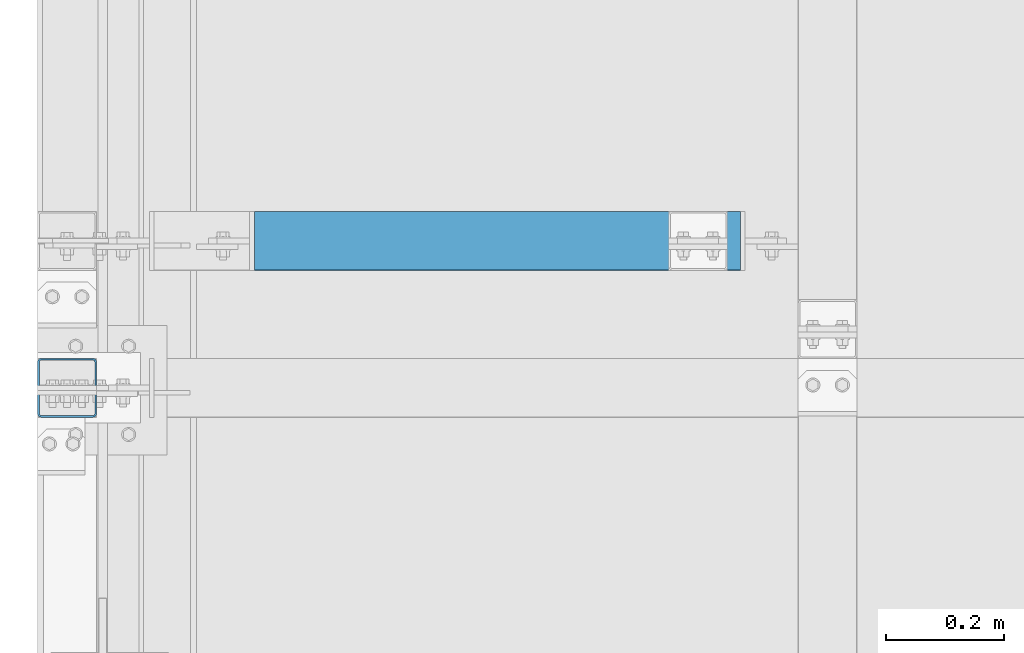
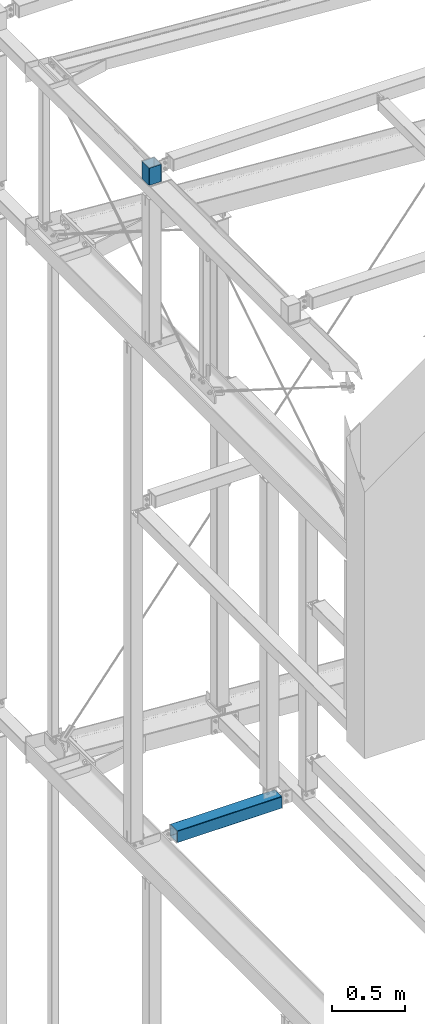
# One storey, part 64 of 271: 2 beams, 2 elements without a shape of their own.
"""IFC2X3 building model written with IfcOpenShell, lengths in millimetres."""

import ifcopenshell
import ifcopenshell.guid

model = None  # the IFC model being written
_history = None  # IfcOwnerHistory: only IFC2X3 demands one
_inside = {}  # id of a spatial element -> (the spatial element, [elements in it])
_under = {}  # id of a project, library or spatial element -> (it, [spatial elements below it])
_declared = {}  # id of a project -> (the project, [libraries it declares])
_typed = {}  # id of a type object -> (the type object, [elements of that type])
_made_of = {}  # id of a material, layer set ... -> (it, [elements and type objects made of it])


def new_model(schema):
    """Start an empty IFC model of exactly this schema.

    Asked for "IFC4X3", IfcOpenShell would pick the latest addendum, in which some entities
    have other attributes; the version numbers below select the first issue.
    IFC2X3 requires an IfcOwnerHistory on every rooted entity: one is made here for all.
    """
    global model, _history
    if schema == "IFC4X3":
        model = ifcopenshell.file(schema_version=(4, 3, 0, 0))
    else:
        model = ifcopenshell.file(schema=schema)
    _inside.clear()
    _under.clear()
    _declared.clear()
    _typed.clear()
    _made_of.clear()
    _history = None
    if model.schema == "IFC2X3":
        org = make("IfcOrganization", Name="unknown")
        user = make(
            "IfcPersonAndOrganization",
            ThePerson=make("IfcPerson", FamilyName="unknown"),
            TheOrganization=org,
        )
        app = make(
            "IfcApplication",
            ApplicationDeveloper=org,
            Version="unknown",
            ApplicationFullName="unknown",
            ApplicationIdentifier="unknown",
        )
        _history = make(
            "IfcOwnerHistory",
            OwningUser=user,
            OwningApplication=app,
            ChangeAction="ADDED",
            CreationDate=0,
        )
    return model


def make(cls, **values):
    """One entity of the class cls with the attributes given. An attribute that is None is left unset."""
    return model.create_entity(
        cls, **{name: value for name, value in values.items() if value is not None}
    )


def rooted(cls, **values):
    """An entity with a GlobalId (a new one), such as an element, a storey or a relation."""
    return make(cls, GlobalId=ifcopenshell.guid.new(), OwnerHistory=_history, **values)


def si_unit(unit_type, name, prefix=None):
    """IfcSIUnit, for example si_unit("LENGTHUNIT", "METRE", prefix="MILLI")."""
    return make("IfcSIUnit", UnitType=unit_type, Prefix=prefix, Name=name)


def assignment(units):
    """IfcUnitAssignment: the units of a project."""
    return None if units is None else make("IfcUnitAssignment", Units=units)


def point(xyz):
    """IfcCartesianPoint."""
    return None if xyz is None else make("IfcCartesianPoint", Coordinates=xyz)


def direction(xyz):
    """IfcDirection."""
    return None if xyz is None else make("IfcDirection", DirectionRatios=xyz)


def frame(location, z_axis=None, x_axis=None):
    """IfcAxis2Placement3D, a coordinate frame: its origin and axes. An axis left out is left unset."""
    return make(
        "IfcAxis2Placement3D",
        Location=point(location),
        Axis=direction(z_axis),
        RefDirection=direction(x_axis),
    )


def frame_2d(location, x_axis=None):
    """IfcAxis2Placement2D, a coordinate frame in the plane: its origin and x axis."""
    return make(
        "IfcAxis2Placement2D", Location=point(location), RefDirection=direction(x_axis)
    )


def origin_with_axes():
    """The frame at (0, 0, 0) with the z axis (0, 0, 1) and the x axis (1, 0, 0) written out."""
    return frame((0.0, 0.0, 0.0), z_axis=(0.0, 0.0, 1.0), x_axis=(1.0, 0.0, 0.0))


def origin_2d_with_axis():
    """The frame at (0, 0) in the plane with the x axis (1, 0) written out."""
    return frame_2d((0.0, 0.0), x_axis=(1.0, 0.0))


def place(relative_to, where):
    """IfcLocalPlacement: puts the frame where relative to a parent placement (None: the world)."""
    return make(
        "IfcLocalPlacement", PlacementRelTo=relative_to, RelativePlacement=where
    )


def context(
    kind, dimensions, precision=None, world=None, true_north=None, identifier=None
):
    """IfcGeometricRepresentationContext, for example the 3D "Model" context."""
    return make(
        "IfcGeometricRepresentationContext",
        ContextIdentifier=identifier,
        ContextType=kind,
        CoordinateSpaceDimension=dimensions,
        Precision=precision,
        WorldCoordinateSystem=world,
        TrueNorth=true_north,
    )


def subcontext(parent, identifier, kind, view, scale=None):
    """IfcGeometricRepresentationSubContext, for example "Body" below "Model"."""
    return make(
        "IfcGeometricRepresentationSubContext",
        ContextIdentifier=identifier,
        ContextType=kind,
        ParentContext=parent,
        TargetScale=scale,
        TargetView=view,
    )


def project(units=None, contexts=None):
    """IfcProject with its units and contexts."""
    return rooted(
        "IfcProject",
        Name="project",
        RepresentationContexts=contexts,
        UnitsInContext=assignment(units),
    )


def spatial(cls, under=None, at=None, **own):
    """A site, building, storey or space (cls), placed at a placement, below another one or the project."""
    s = rooted(cls, ObjectPlacement=at, **own)
    if under is not None:
        _under.setdefault(under.id(), (under, []))[1].append(s)
    return s


def profile(cls, at=None, kind="AREA", **sizes):
    """A parametric profile (cls). Its sizes go by their IFC names, for example OverallWidth=200.0."""
    return make(cls, ProfileType=kind, Position=at, **sizes)


def hollow_rectangle(**sizes):
    """IfcRectangleHollowProfileDef."""
    return profile("IfcRectangleHollowProfileDef", **sizes)


def extrude(swept, where, along, depth):
    """IfcExtrudedAreaSolid: the profile swept, set in the frame where, extruded along a direction by depth."""
    return make(
        "IfcExtrudedAreaSolid",
        SweptArea=swept,
        Position=where,
        ExtrudedDirection=direction(along),
        Depth=depth,
    )


def clip(a, b, op="DIFFERENCE"):
    """IfcBooleanClippingResult: the solid a cut by the half space b."""
    return make(
        "IfcBooleanClippingResult", Operator=op, FirstOperand=a, SecondOperand=b
    )


def halfspace(plane, agree):
    """IfcHalfSpaceSolid: all space on one side of the plane z = 0 of the frame plane."""
    return make(
        "IfcHalfSpaceSolid",
        BaseSurface=make("IfcPlane", Position=plane),
        AgreementFlag=agree,
    )


def shape(context_of_items, identifier, shape_type, items):
    """IfcShapeRepresentation: the items that make up one representation, for example the "Body"."""
    return make(
        "IfcShapeRepresentation",
        ContextOfItems=context_of_items,
        RepresentationIdentifier=identifier,
        RepresentationType=shape_type,
        Items=items,
    )


def material(Name=None, Category=None):
    """IfcMaterial."""
    return make("IfcMaterial", Name=Name, Category=Category)


def made_of(thing, what):
    """Note that an element or type object is made of a material, layer set ...; save() writes the relation."""
    if what is not None:
        _made_of.setdefault(what.id(), (what, []))[1].append(thing)
    return thing


def type_object(cls, material=None, **own):
    """A type object (cls), such as IfcWallType, which elements share."""
    return made_of(rooted(cls, **own), material)


def element(
    cls,
    number,
    at=None,
    inside=None,
    cuts=None,
    type_object=None,
    material=None,
    context=None,
    identifier="Body",
    shape_type=None,
    held_by="IfcProductDefinitionShape",
    body=None,
    shapes=None,
    **own,
):
    """One element of the class cls, such as IfcWall. Its Tag is "e" and its number.

    at: its placement. inside: the storey or other place that contains it. cuts: it is an
    opening in that element (IfcRelVoidsElement). A single representation is given by context,
    identifier, shape_type and body (its items); several are given by shapes. held_by: the class
    of the entity that holds the representations. save() writes the other relations.
    """
    e = rooted(cls, Tag="e%d" % number, ObjectPlacement=at, **own)
    if body is not None:
        shapes = [shape(context, identifier, shape_type, body)]
    if shapes is not None:
        e.Representation = make(held_by, Representations=shapes)
    if inside is not None:
        _inside.setdefault(inside.id(), (inside, []))[1].append(e)
    if cuts is not None:
        rooted(
            "IfcRelVoidsElement", RelatingBuildingElement=cuts, RelatedOpeningElement=e
        )
    if type_object is not None:
        _typed.setdefault(type_object.id(), (type_object, []))[1].append(e)
    return made_of(e, material)


def aggregate(whole, parts):
    """IfcRelAggregates: a whole, such as a stair, and the parts it consists of."""
    return rooted("IfcRelAggregates", RelatingObject=whole, RelatedObjects=parts)


def save(model, path):
    """Write the relations noted so far, then the file.

    IfcRelAggregates (storeys below a building ...), IfcRelContainedInSpatialStructure (elements
    in a storey), IfcRelDefinesByType, IfcRelAssociatesMaterial and IfcRelDeclares: one each for
    every whole, place, type object, material and project.
    """
    for whole, parts in _under.values():
        aggregate(whole, parts)
    for where, things in _inside.values():
        rooted(
            "IfcRelContainedInSpatialStructure",
            RelatedElements=things,
            RelatingStructure=where,
        )
    for kind, things in _typed.values():
        rooted("IfcRelDefinesByType", RelatedObjects=things, RelatingType=kind)
    for what, things in _made_of.values():
        rooted("IfcRelAssociatesMaterial", RelatedObjects=things, RelatingMaterial=what)
    for by, libraries in _declared.values():
        rooted("IfcRelDeclares", RelatingContext=by, RelatedDefinitions=libraries)
    model.write(path)


model = new_model("IFC2X3")

# Units and contexts
model_context = context("Model", 3, precision=1e-05, world=origin_with_axes())
body_context = subcontext(model_context, "Body", "Model", "MODEL_VIEW")
ifc_project = project(units=[si_unit("LENGTHUNIT", "METRE", prefix="MILLI"), si_unit("AREAUNIT", "SQUARE_METRE"), si_unit("VOLUMEUNIT", "CUBIC_METRE"), si_unit("MASSUNIT", "GRAM", prefix="KILO"), si_unit("TIMEUNIT", "SECOND"), si_unit("PLANEANGLEUNIT", "RADIAN"), si_unit("SOLIDANGLEUNIT", "STERADIAN"), si_unit("THERMODYNAMICTEMPERATUREUNIT", "DEGREE_CELSIUS"), si_unit("LUMINOUSINTENSITYUNIT", "LUMEN")], contexts=[model_context])

# Site, building, storey
site_placement = place(None, origin_with_axes())
site = spatial("IfcSite", under=ifc_project, at=site_placement, Name="Undefined", CompositionType="ELEMENT")
building_placement = place(site_placement, origin_with_axes())
building = spatial("IfcBuilding", under=site, at=building_placement, Name="Undefined", CompositionType="ELEMENT")
storey_placement = place(building_placement, origin_with_axes())
storey = spatial("IfcBuildingStorey", under=building, at=storey_placement, Name="Undefined", CompositionType="ELEMENT", Elevation=0.0)

# Assembly, beam
assembly_1_placement = place(storey_placement, origin_with_axes())
assembly_1 = element("IfcElementAssembly", 1, at=assembly_1_placement, inside=storey, AssemblyPlace="NOTDEFINED", PredefinedType="RIGID_FRAME")
ifc_material = material(Name="STEEL/S355JR")
beam_type = type_object("IfcBeamType", Name="SHS100*3", PredefinedType="NOTDEFINED")
beam_1_placement = place(assembly_1_placement, frame((1280.37568709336, 3049.0521198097, 14341.8499999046), z_axis=(0.0, 1.0, 0.0), x_axis=(-1.0, 0.0, 1.38777878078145e-17)))
beam_1 = element("IfcBeam", 2, at=beam_1_placement, type_object=beam_type, material=ifc_material, Name="RYGIEL", ObjectType="SHS100*3", context=body_context, shape_type="Clipping", body=[
    clip(clip(extrude(hollow_rectangle(XDim=100.0, YDim=100.0, WallThickness=3.0, InnerFilletRadius=3.0, OuterFilletRadius=6.0, at=origin_2d_with_axis()), frame((1022.0, 0.0, 0.0), z_axis=(-1.0, 0.0, 1.38777878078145e-17), x_axis=(0.0, -1.0, 0.0)), (0.0, 0.0, 1.0), 1022.0), halfspace(frame((923.999999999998, 0.0, -15.0), z_axis=(-1.0, 0.0, 1.38777878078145e-17), x_axis=(0.0, 1.0, 0.0)), True)), halfspace(frame((97.9999999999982, 0.0, -15.0), z_axis=(1.0, 0.0, 0.0), x_axis=(0.0, -1.0, 0.0)), True)),
])
aggregate(assembly_1, [beam_1])

assembly_2_placement = place(storey_placement, origin_with_axes())
assembly_2 = element("IfcElementAssembly", 3, at=assembly_2_placement, inside=storey, AssemblyPlace="NOTDEFINED", PredefinedType="RIGID_FRAME")
beam_2_placement = place(assembly_2_placement, frame((38.3756870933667, 2799.32498425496, 20204.3499999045), z_axis=(0.0, 1.0, 0.0), x_axis=(0.0, 0.0, -1.0)))
beam_2 = element("IfcBeam", 4, at=beam_2_placement, type_object=beam_type, material=ifc_material, Name="TĘŻNIK", ObjectType="SHS100*3", context=body_context, shape_type="Clipping", body=[
    clip(extrude(hollow_rectangle(XDim=100.0, YDim=100.0, WallThickness=3.0, InnerFilletRadius=3.0, OuterFilletRadius=6.0, at=origin_2d_with_axis()), frame((146.5, 0.0, 0.0), z_axis=(-1.0, 0.0, 1.38777878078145e-17), x_axis=(0.0, -1.0, 0.0)), (0.0, 0.0, 1.0), 146.5), halfspace(frame((4.0, 0.0, -50.0), z_axis=(1.0, 0.0, 0.0), x_axis=(0.0, -1.0, 0.0)), True)),
])
aggregate(assembly_2, [beam_2])

save(model, "model.ifc")
